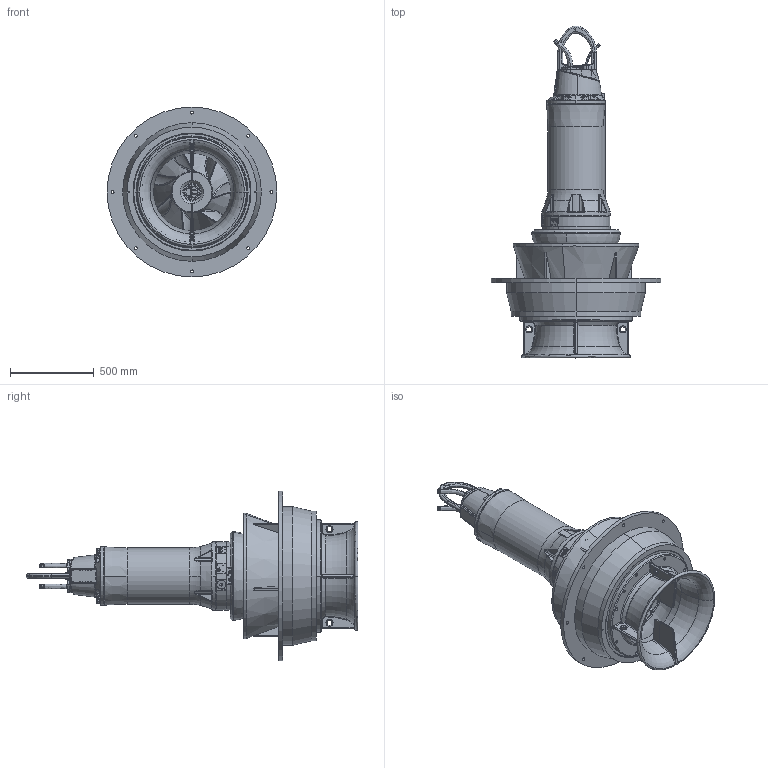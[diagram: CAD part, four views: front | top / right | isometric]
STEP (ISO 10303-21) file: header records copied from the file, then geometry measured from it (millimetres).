
FILE_DESCRIPTION (( 'STEP AP214' ), '1' );
FILE_NAME ('SE4 VUPC 0601-0602 FU.STEP', '2020-09-24T14:04:27', ( '' ), ( '' ), 'SwSTEP 2.0', 'SolidWorks 2017', '' );
FILE_SCHEMA (( 'AUTOMOTIVE_DESIGN' ));
Length unit declared in the file: millimetre
Products named in the file (1): SE4 VUPC 0601-0602 FU
Bounding box: 1015 x 1983.4 x 1015 mm (x, y, z)
Volume: 91942368.9 mm3; surface area: 11308446.6 mm2
Topology: 30 solids, 32 shells, 3921 faces, 9568 edges, 5583 vertices
Faces by surface type: bspline 1270, cylinder 951, plane 685, cone 476, torus 416, sphere 123
Entity records: 263679 total; most frequent: CARTESIAN_POINT 138511, ORIENTED_EDGE 18472, DIRECTION 15173, EDGE_CURVE 9236, AXIS2_PLACEMENT_3D 6287, VERTEX_POINT 5558, EDGE_LOOP 4280, UNCERTAINTY_MEASURE_WITH_UNIT 3951
